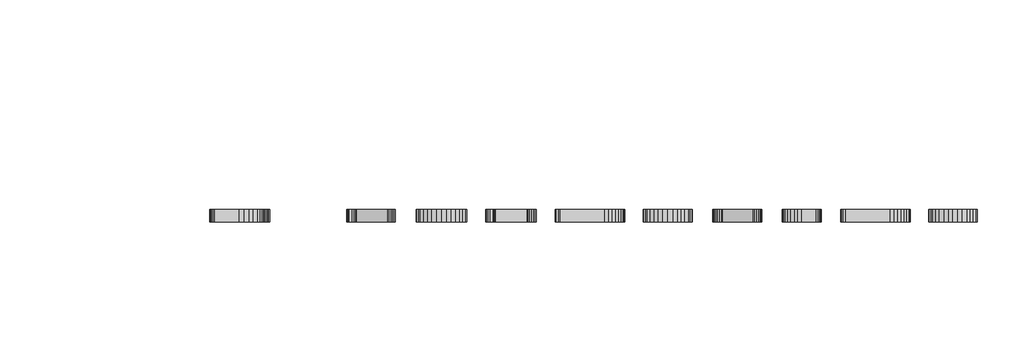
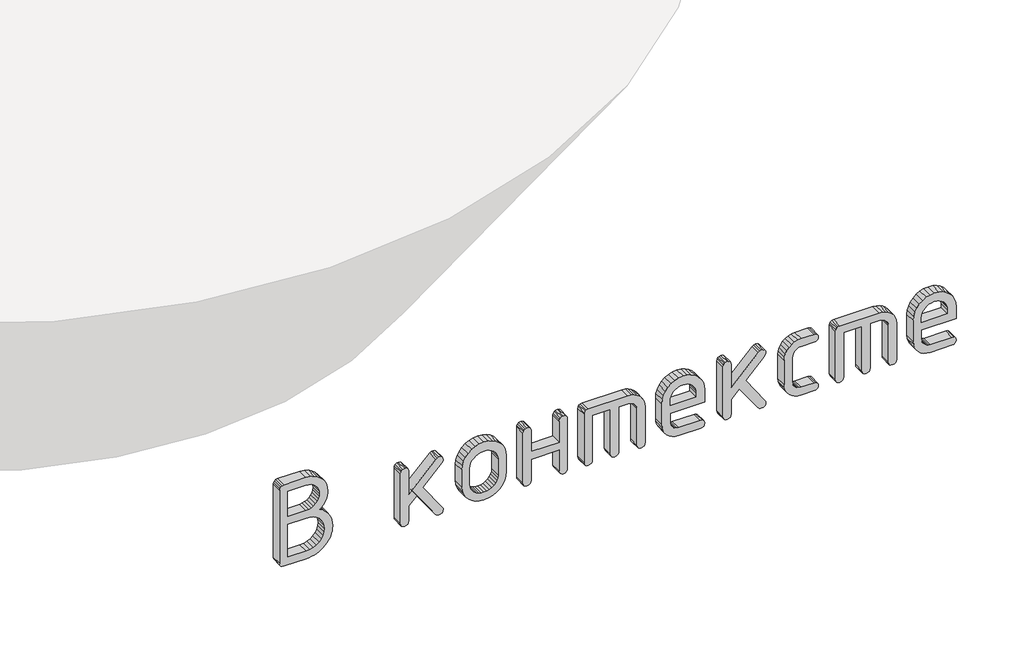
# One storey, part 6 of 6: 1 proxy.
"""IFC4 building model written with IfcOpenShell, lengths in millimetres."""

from ifc_helpers import new_model, si_unit, frame, origin, place, context, project, spatial, polyline, outline, extrude, element, save

model = new_model("IFC4")

# Units and contexts
model_context = context("Model", 3, world=origin())
ifc_project = project(units=[si_unit("LENGTHUNIT", "METRE", prefix="MILLI")], contexts=[model_context])

# Site, building, storey
site = spatial("IfcSite", under=ifc_project)
building = spatial("IfcBuilding", under=site)
storey = spatial("IfcBuildingStorey", under=building, Name="Уровень 1", Elevation=0.0)

# Proxy
placement = place(None, origin())
element("IfcBuildingElementProxy", 1, Name="600 мм Arial", ObjectType="600 мм Arial", at=placement, inside=storey, context=model_context, shape_type="SweptSolid", body=[
    extrude(outline(polyline([(-165.9373664, 70919.1224607), (-142.548362, 70944.0557571), (-117.4859066, 70965.664614), (-90.7500002, 70983.9490314), (-62.3406428, 70998.9090093), (-32.2578344, 71010.5445477), (-0.5015751, 71018.8556465), (32.9281352, 71023.8423058), (68.0312965, 71025.5045255), (128.81463, 71020.0236928), (184.656229, 71003.5811946), (235.5560937, 70976.1770309), (281.5142239, 70937.8112018), (319.565579, 70891.4487479), (346.7451184, 70840.0547098), (363.052842, 70783.6290876), (368.4887498, 70722.1718812), (368.4887498, 70419.1986357), (364.7599866, 70392.625582), (353.5736968, 70373.6448293), (334.9298806, 70362.2563776), (308.8285378, 70358.4602271), (-767.9304698, 70358.4602271), (-794.0318125, 70362.3013025), (-812.6756288, 70373.8245287), (-823.8619186, 70393.0299057), (-827.5906818, 70419.9174335), (-827.5906818, 70726.4846676), (-825.9537323, 70763.8846123), (-821.0428837, 70799.8918863), (-812.858136, 70834.5064898), (-801.3994893, 70867.7284226), (-786.6669436, 70899.5576848), (-768.6604987, 70929.9942764), (-747.3801548, 70959.0381974), (-722.8259119, 70986.6894478), (-695.9580387, 71011.9596807), (-667.7368042, 71033.8605492), (-638.1622083, 71052.3920533), (-607.2342511, 71067.554193), (-574.9529325, 71079.3469684), (-541.3182525, 71087.7703793), (-506.3302112, 71092.8244259), (-469.9888085, 71094.5091081), (-420.8185509, 71091.7686917), (-374.8379582, 71083.5474426), (-332.0470306, 71069.8453608), (-292.4457678, 71050.6624463), (-256.03417, 71025.998699), (-222.8122372, 70995.8541189), (-192.7799693, 70960.2287062), (-165.9373664, 70919.1224607)]), holes=[polyline([(253.4811122, 70473.4678648), (253.4811122, 70723.2500778), (250.1117478, 70760.6387912), (240.0036546, 70795.1747762), (223.1568327, 70826.8580326), (199.571282, 70855.6885605), (171.2236963, 70879.6672037), (140.0907694, 70896.794806), (106.1725013, 70907.0713674), (69.4688919, 70910.4968879), (32.7652826, 70907.0713674), (-1.1529856, 70896.794806), (-32.2859125, 70879.6672037), (-60.6334982, 70855.6885605), (-84.2190489, 70826.8580326), (-101.0658708, 70795.1747762), (-111.1739639, 70760.6387912), (-114.5433283, 70723.2500778), (-114.5433283, 70473.4678648), (253.4811122, 70473.4678648)]), polyline([(-229.550966, 70473.4678648), (-229.550966, 70726.4846676), (-233.9199085, 70777.6091565), (-247.0267359, 70824.6005585), (-268.8714484, 70867.4588735), (-299.4540457, 70906.1841014), (-336.3935106, 70938.2604504), (-377.3088255, 70961.1721282), (-422.1999903, 70974.9191349), (-471.0670051, 70979.5014705), (-519.9340199, 70974.9191349), (-564.8251847, 70961.1721282), (-605.7404995, 70938.2604504), (-642.6799644, 70906.1841014), (-673.2625618, 70867.4588735), (-695.1072742, 70824.6005585), (-708.2141017, 70777.6091565), (-712.5830442, 70726.4846676), (-712.5830442, 70473.4678648), (-229.550966, 70473.4678648)])]), frame((0.0, 248.4758454, 0.0), z_axis=(0.0, 1.0, 0.0), x_axis=(0.0, 0.0, 1.0)), (0.0, 0.0, 1.0), 150.0),
    extrude(outline(polyline([(-376.185704, 72152.5793746), (-37.2725718, 72152.5793746), (-10.699518, 72148.9853859), (8.2812347, 72138.2034199), (19.6696863, 72120.2334765), (23.4658369, 72095.0755558), (19.6696863, 72069.917635), (8.2812347, 72051.9476916), (-10.699518, 72041.1657256), (-37.2725718, 72037.5717369), (-766.8522732, 72037.5717369), (-793.425327, 72041.1657256), (-812.4060797, 72051.9476916), (-823.7945313, 72069.917635), (-827.5906818, 72095.0755558), (-823.8394561, 72120.2334765), (-812.5857791, 72138.2034199), (-793.8296507, 72148.9853859), (-767.5710709, 72152.5793746), (-550.8535537, 72152.5793746), (-439.0805058, 72264.7118213), (-802.0733622, 72522.7602083), (-813.2371895, 72532.7784517), (-821.2113519, 72544.5038398), (-825.9958493, 72557.9363725), (-827.5906818, 72573.0760498), (-823.8394561, 72599.3346295), (-812.5857791, 72618.090758), (-793.8296507, 72629.344435), (-767.5710709, 72633.0956607), (-749.0620292, 72630.13062), (-731.6311841, 72621.235498), (-346.7149968, 72350.9675495), (-79.6816382, 72614.7663184), (-59.9147004, 72628.5133251), (-37.2725718, 72633.0956607), (-10.699518, 72629.344435), (8.2812347, 72618.090758), (19.6696863, 72599.3346295), (23.4658369, 72573.0760498), (19.0632007, 72549.6252737), (5.8552924, 72530.3075845), (-376.185704, 72152.5793746)])), frame((0.0, 248.4758454, 0.0), z_axis=(0.0, 1.0, 0.0), x_axis=(0.0, 0.0, 1.0)), (0.0, 0.0, 1.0), 150.0),
    extrude(outline(polyline([(-523.5392398, 72888.6282556), (-584.2888796, 72894.300019), (-640.3887966, 72911.3153091), (-691.8389908, 72939.674126), (-738.6394621, 72979.3764697), (-777.5556207, 73027.1428255), (-805.3528769, 73079.6936786), (-822.0312306, 73137.0290292), (-827.5906818, 73199.1488773), (-822.0312306, 73261.2687253), (-805.3528769, 73318.6040759), (-777.5556207, 73371.1549291), (-738.6394621, 73418.9212849), (-691.8389908, 73458.6236285), (-640.3887966, 73486.9824454), (-584.2888796, 73503.9977356), (-523.5392398, 73509.669499), (-280.5856052, 73509.669499), (-218.9599306, 73504.0538917), (-162.3883026, 73487.2070697), (-110.8707211, 73459.1290332), (-64.4071863, 73419.819782), (-25.9627387, 73372.3342067), (1.4975811, 73319.7271974), (17.9737729, 73261.9987543), (23.4658369, 73199.1488773), (17.9063856, 73137.0290292), (1.2280319, 73079.6936786), (-26.5692242, 73027.1428255), (-65.4853829, 72979.3764697), (-112.2858542, 72939.674126), (-163.7360483, 72911.3153091), (-219.8359653, 72894.300019), (-280.5856052, 72888.6282556), (-523.5392398, 72888.6282556)]), holes=[polyline([(-532.5242114, 73394.6618613), (-568.3742485, 73391.0791038), (-601.528794, 73380.3308315), (-631.9878481, 73362.4170441), (-659.7514106, 73337.3377419), (-682.8652503, 73307.2043931), (-699.3751358, 73274.1284661), (-709.2810671, 73238.1099608), (-712.5830442, 73199.1488773), (-709.3147607, 73159.7497764), (-699.5099103, 73123.4954156), (-683.1684931, 73090.385795), (-660.2905089, 73060.4209144), (-632.6954146, 73035.5774676), (-602.2026669, 73017.8321485), (-568.8122659, 73007.1849571), (-532.5242114, 73003.6358933), (-292.086369, 73003.6358933), (-256.2363319, 73007.2186507), (-223.0817864, 73017.9669231), (-192.6227323, 73035.8807104), (-164.8591698, 73060.9600127), (-141.7453301, 73091.0933615), (-125.2354446, 73124.1692885), (-115.3295133, 73160.1877938), (-112.0275363, 73199.1488773), (-115.3295133, 73238.1099608), (-125.2354446, 73274.1284661), (-141.7453301, 73307.2043931), (-164.8591698, 73337.3377419), (-192.6227323, 73362.4170441), (-223.0817864, 73380.3308315), (-256.2363319, 73391.0791038), (-292.086369, 73394.6618613), (-532.5242114, 73394.6618613)])]), frame((0.0, 248.4758454, 0.0), z_axis=(0.0, 1.0, 0.0), x_axis=(0.0, 0.0, 1.0)), (0.0, 0.0, 1.0), 150.0),
    extrude(outline(polyline([(-459.5662413, 73854.6924119), (-459.5662413, 74245.71838), (-766.1334754, 74245.71838), (-793.0210032, 74249.3123687), (-812.2263802, 74260.0943347), (-823.7496064, 74278.0642781), (-827.5906818, 74303.2221988), (-823.7945313, 74328.3801196), (-812.4060797, 74346.3500629), (-793.425327, 74357.132029), (-766.8522732, 74360.7260176), (-37.2725718, 74360.7260176), (-10.699518, 74357.132029), (8.2812347, 74346.3500629), (19.6696863, 74328.3801196), (23.4658369, 74303.2221988), (19.6247615, 74278.0642781), (8.1015353, 74260.0943347), (-11.1038417, 74249.3123687), (-37.9913695, 74245.71838), (-344.5586036, 74245.71838), (-344.5586036, 73854.6924119), (-37.9913695, 73854.6924119), (-11.1038417, 73851.0984233), (8.1015353, 73840.3164572), (19.6247615, 73822.3465139), (23.4658369, 73797.1885931), (19.6696863, 73772.0306724), (8.2812347, 73754.060729), (-10.699518, 73743.278763), (-37.2725718, 73739.6847743), (-766.8522732, 73739.6847743), (-793.425327, 73743.278763), (-812.4060797, 73754.060729), (-823.7945313, 73772.0306724), (-827.5906818, 73797.1885931), (-823.7496064, 73822.3465139), (-812.2263802, 73840.3164572), (-793.0210032, 73851.0984233), (-766.1334754, 73854.6924119), (-459.5662413, 73854.6924119)])), frame((0.0, 248.4758454, 0.0), z_axis=(0.0, 1.0, 0.0), x_axis=(0.0, 0.0, 1.0)), (0.0, 0.0, 1.0), 150.0),
    extrude(outline(polyline([(0.4643093, 74651.4797016), (-3.2419915, 74624.9066478), (-14.360894, 74605.9258951), (-32.8923981, 74594.5374435), (-58.8365038, 74590.741293), (-768.2898686, 74590.741293), (-794.2339744, 74594.3352816), (-812.7654785, 74605.1172477), (-823.884381, 74623.0871911), (-827.5906818, 74648.2451118), (-823.884381, 74673.4030325), (-812.7654785, 74691.3729759), (-794.2339744, 74702.1549419), (-768.2898686, 74705.7489306), (-114.5433283, 74705.7489306), (-114.5433283, 74958.7657335), (-768.2898686, 74958.7657335), (-794.2339744, 74962.3597222), (-812.7654785, 74973.1416882), (-823.884381, 74991.1116316), (-827.5906818, 75016.2695523), (-823.884381, 75041.427473), (-812.7654785, 75059.3974164), (-794.2339744, 75070.1793825), (-768.2898686, 75073.7733711), (-114.5433283, 75073.7733711), (-114.5433283, 75200.2817726), (-116.6772591, 75225.9900228), (-123.0790514, 75249.5643423), (-133.7487053, 75271.004731), (-148.6862208, 75290.3111889), (-166.7909387, 75306.2707449), (-186.9622002, 75317.6704277), (-209.2000051, 75324.5102374), (-233.5043535, 75326.790174), (-768.2898686, 75326.790174), (-794.2339744, 75330.3841627), (-812.7654785, 75341.1661287), (-823.884381, 75359.1360721), (-827.5906818, 75384.2939928), (-823.884381, 75409.4519136), (-812.7654785, 75427.4218569), (-794.2339744, 75438.203823), (-768.2898686, 75441.7978116), (-236.0201456, 75441.7978116), (-188.6244199, 75437.3614819), (-144.9125326, 75424.0524926), (-104.8844838, 75401.8708437), (-68.5402733, 75370.8165353), (-38.3507684, 75333.4278218), (-16.7868363, 75292.2429578), (-3.8484771, 75247.2619433), (0.4643093, 75198.4847782), (0.4643093, 74651.4797016)])), frame((0.0, 248.4758454, 0.0), z_axis=(0.0, 1.0, 0.0), x_axis=(0.0, 0.0, 1.0)), (0.0, 0.0, 1.0), 150.0),
    extrude(outline(polyline([(-459.5662413, 75786.8207246), (-459.5662413, 76267.3370107), (-278.429212, 76267.3370107), (-217.3089421, 76261.9011028), (-161.1753314, 76245.5933792), (-110.02838, 76218.4138399), (-63.868088, 76180.3624847), (-25.6594959, 76134.4043545), (1.6323557, 76083.5044899), (18.0074666, 76027.6628908), (23.4658369, 75966.8795573), (17.9063856, 75907.1407268), (1.2280319, 75852.2762434), (-26.5692242, 75802.2861072), (-65.4853829, 75757.170318), (-112.2858542, 75719.8265294), (-163.7360483, 75693.1523947), (-219.8359653, 75677.1479139), (-280.5856052, 75671.813087), (-584.2776484, 75671.813087), (-633.4928308, 75676.00233), (-678.7097009, 75688.5700592), (-719.9282585, 75709.5162744), (-757.1485037, 75738.8409758), (-787.9669567, 75774.4776198), (-809.9801373, 75814.3596629), (-823.1880457, 75858.4871051), (-827.5906818, 75906.8599464), (-827.5906818, 76207.3173998), (-823.9966931, 76233.5759796), (-813.2147271, 76252.332108), (-795.2447837, 76263.585785), (-770.086863, 76267.3370107), (-744.9289422, 76263.585785), (-726.9589989, 76252.332108), (-716.1770328, 76233.5759796), (-712.5830442, 76207.3173998), (-712.5830442, 75906.8599464), (-710.2469515, 75883.2519333), (-703.2386736, 75861.30614), (-691.5582104, 75841.0225664), (-675.2055619, 75822.4012125), (-655.6183236, 75806.8347491), (-634.234091, 75795.7158466), (-611.052864, 75789.0445051), (-586.0746427, 75786.8207246), (-459.5662413, 75786.8207246)]), holes=[polyline([(-104.48016, 75966.8795573), (-107.7821371, 76002.8868314), (-117.6880684, 76036.1536891), (-134.1979539, 76066.6801304), (-157.3117936, 76094.4661554), (-185.0753561, 76117.579995), (-215.5344101, 76134.0898805), (-248.6889557, 76143.9958118), (-284.5389927, 76147.2977889), (-344.5586036, 76147.2977889), (-344.5586036, 75786.8207246), (-284.5389927, 75786.8207246), (-248.6889557, 75790.1227017), (-215.5344101, 75800.028633), (-185.0753561, 75816.5385185), (-157.3117936, 75839.6523582), (-134.1979539, 75867.4159207), (-117.6880684, 75897.8749747), (-107.7821371, 75931.0295203), (-104.48016, 75966.8795573)])]), frame((0.0, 248.4758454, 0.0), z_axis=(0.0, 1.0, 0.0), x_axis=(0.0, 0.0, 1.0)), (0.0, 0.0, 1.0), 150.0),
    extrude(outline(polyline([(-376.185704, 76637.8772433), (-37.2725718, 76637.8772433), (-10.699518, 76634.2832546), (8.2812347, 76623.5012886), (19.6696863, 76605.5313452), (23.4658369, 76580.3734245), (19.6696863, 76555.2155037), (8.2812347, 76537.2455604), (-10.699518, 76526.4635943), (-37.2725718, 76522.8696056), (-766.8522732, 76522.8696056), (-793.425327, 76526.4635943), (-812.4060797, 76537.2455604), (-823.7945313, 76555.2155037), (-827.5906818, 76580.3734245), (-823.8394561, 76605.5313452), (-812.5857791, 76623.5012886), (-793.8296507, 76634.2832546), (-767.5710709, 76637.8772433), (-550.8535537, 76637.8772433), (-439.0805058, 76750.00969), (-802.0733622, 77008.058077), (-813.2371895, 77018.0763205), (-821.2113519, 77029.8017085), (-825.9958493, 77043.2342412), (-827.5906818, 77058.3739185), (-823.8394561, 77084.6324983), (-812.5857791, 77103.3886267), (-793.8296507, 77114.6423037), (-767.5710709, 77118.3935294), (-749.0620292, 77115.4284887), (-731.6311841, 77106.5333668), (-346.7149968, 76836.2654183), (-79.6816382, 77100.0641872), (-59.9147004, 77113.8111938), (-37.2725718, 77118.3935294), (-10.699518, 77114.6423037), (8.2812347, 77103.3886267), (19.6696863, 77084.6324983), (23.4658369, 77058.3739185), (19.0632007, 77034.9231424), (5.8552924, 77015.6054532), (-376.185704, 76637.8772433)])), frame((0.0, 248.4758454, 0.0), z_axis=(0.0, 1.0, 0.0), x_axis=(0.0, 0.0, 1.0)), (0.0, 0.0, 1.0), 150.0),
    extrude(outline(polyline([(-234.2231513, 77488.933762), (-210.188352, 77491.1238488), (-188.0403968, 77497.6941094), (-167.7792856, 77508.6445436), (-149.4050185, 77523.9751516), (-134.153029, 77542.4280372), (-123.2587509, 77562.7453044), (-116.722184, 77584.9269533), (-114.5433283, 77608.9729838), (-114.5433283, 77789.3912154), (-110.9493396, 77815.6497951), (-100.1673736, 77834.4059236), (-82.1974302, 77845.6596006), (-57.0395095, 77849.4108263), (-31.8815888, 77845.6596006), (-13.9116454, 77834.4059236), (-3.1296793, 77815.6497951), (0.4643093, 77789.3912154), (0.4643093, 77608.9729838), (-3.8260146, 77560.6001424), (-16.6969866, 77516.4727002), (-38.1486065, 77476.5906571), (-68.1808744, 77440.9540132), (-104.4127727, 77411.6293118), (-144.4632841, 77390.6830965), (-188.3324083, 77378.1153674), (-236.0201456, 77373.9261243), (-591.1062269, 77373.9261243), (-638.7939641, 77378.1153674), (-682.6630884, 77390.6830965), (-722.7135997, 77411.6293118), (-758.9454981, 77440.9540132), (-788.977766, 77476.5906571), (-810.4293859, 77516.4727002), (-823.3003578, 77560.6001424), (-827.5906818, 77608.9729838), (-827.5906818, 77789.3912154), (-823.9966931, 77815.6497951), (-813.2147271, 77834.4059236), (-795.2447837, 77845.6596006), (-770.086863, 77849.4108263), (-744.9289422, 77845.6596006), (-726.9589989, 77834.4059236), (-716.1770328, 77815.6497951), (-712.5830442, 77789.3912154), (-712.5830442, 77608.9729838), (-710.3704949, 77585.3649707), (-703.732847, 77563.4191773), (-692.6701006, 77543.1356037), (-677.1822557, 77524.5142499), (-658.6395204, 77508.9477864), (-638.4121028, 77497.828884), (-616.5000031, 77491.1575425), (-592.9032212, 77488.933762), (-234.2231513, 77488.933762)])), frame((0.0, 248.4758454, 0.0), z_axis=(0.0, 1.0, 0.0), x_axis=(0.0, 0.0, 1.0)), (0.0, 0.0, 1.0), 150.0),
    extrude(outline(polyline([(0.4643093, 78147.7118865), (-3.2419915, 78121.1388327), (-14.360894, 78102.15808), (-32.8923981, 78090.7696284), (-58.8365038, 78086.9734778), (-768.2898686, 78086.9734778), (-794.2339744, 78090.5674665), (-812.7654785, 78101.3494325), (-823.884381, 78119.3193759), (-827.5906818, 78144.4772966), (-823.884381, 78169.6352174), (-812.7654785, 78187.6051608), (-794.2339744, 78198.3871268), (-768.2898686, 78201.9811155), (-114.5433283, 78201.9811155), (-114.5433283, 78454.9979183), (-768.2898686, 78454.9979183), (-794.2339744, 78458.591907), (-812.7654785, 78469.373873), (-823.884381, 78487.3438164), (-827.5906818, 78512.5017372), (-823.884381, 78537.6596579), (-812.7654785, 78555.6296013), (-794.2339744, 78566.4115673), (-768.2898686, 78570.005556), (-114.5433283, 78570.005556), (-114.5433283, 78696.5139574), (-116.6772591, 78722.2222077), (-123.0790514, 78745.7965271), (-133.7487053, 78767.2369158), (-148.6862208, 78786.5433738), (-166.7909387, 78802.5029297), (-186.9622002, 78813.9026126), (-209.2000051, 78820.7424223), (-233.5043535, 78823.0223588), (-768.2898686, 78823.0223588), (-794.2339744, 78826.6163475), (-812.7654785, 78837.3983135), (-823.884381, 78855.3682569), (-827.5906818, 78880.5261777), (-823.884381, 78905.6840984), (-812.7654785, 78923.6540418), (-794.2339744, 78934.4360078), (-768.2898686, 78938.0299965), (-236.0201456, 78938.0299965), (-188.6244199, 78933.5936667), (-144.9125326, 78920.2846774), (-104.8844838, 78898.1030285), (-68.5402733, 78867.0487201), (-38.3507684, 78829.6600067), (-16.7868363, 78788.4751427), (-3.8484771, 78743.4941281), (0.4643093, 78694.7169631), (0.4643093, 78147.7118865)])), frame((0.0, 248.4758454, 0.0), z_axis=(0.0, 1.0, 0.0), x_axis=(0.0, 0.0, 1.0)), (0.0, 0.0, 1.0), 150.0),
    extrude(outline(polyline([(-459.5662413, 79283.0529095), (-459.5662413, 79763.5691956), (-278.429212, 79763.5691956), (-217.3089421, 79758.1332877), (-161.1753314, 79741.8255641), (-110.02838, 79714.6460247), (-63.868088, 79676.5946696), (-25.6594959, 79630.6365394), (1.6323557, 79579.7366748), (18.0074666, 79523.8950757), (23.4658369, 79463.1117422), (17.9063856, 79403.3729117), (1.2280319, 79348.5084283), (-26.5692242, 79298.518292), (-65.4853829, 79253.4025029), (-112.2858542, 79216.0587143), (-163.7360483, 79189.3845796), (-219.8359653, 79173.3800988), (-280.5856052, 79168.0452718), (-584.2776484, 79168.0452718), (-633.4928308, 79172.2345149), (-678.7097009, 79184.802244), (-719.9282585, 79205.7484593), (-757.1485037, 79235.0731606), (-787.9669567, 79270.7098046), (-809.9801373, 79310.5918477), (-823.1880457, 79354.7192899), (-827.5906818, 79403.0921313), (-827.5906818, 79703.5495847), (-823.9966931, 79729.8081644), (-813.2147271, 79748.5642928), (-795.2447837, 79759.8179699), (-770.086863, 79763.5691956), (-744.9289422, 79759.8179699), (-726.9589989, 79748.5642928), (-716.1770328, 79729.8081644), (-712.5830442, 79703.5495847), (-712.5830442, 79403.0921313), (-710.2469515, 79379.4841182), (-703.2386736, 79357.5383248), (-691.5582104, 79337.2547512), (-675.2055619, 79318.6333974), (-655.6183236, 79303.0669339), (-634.234091, 79291.9480315), (-611.052864, 79285.27669), (-586.0746427, 79283.0529095), (-459.5662413, 79283.0529095)]), holes=[polyline([(-104.48016, 79463.1117422), (-107.7821371, 79499.1190162), (-117.6880684, 79532.3858739), (-134.1979539, 79562.9123153), (-157.3117936, 79590.6983402), (-185.0753561, 79613.8121799), (-215.5344101, 79630.3220654), (-248.6889557, 79640.2279967), (-284.5389927, 79643.5299738), (-344.5586036, 79643.5299738), (-344.5586036, 79283.0529095), (-284.5389927, 79283.0529095), (-248.6889557, 79286.3548866), (-215.5344101, 79296.2608179), (-185.0753561, 79312.7707033), (-157.3117936, 79335.884543), (-134.1979539, 79363.6481056), (-117.6880684, 79394.1071596), (-107.7821371, 79427.2617051), (-104.48016, 79463.1117422)])]), frame((0.0, 248.4758454, 0.0), z_axis=(0.0, 1.0, 0.0), x_axis=(0.0, 0.0, 1.0)), (0.0, 0.0, 1.0), 150.0),
])

save(model, "model.ifc")
